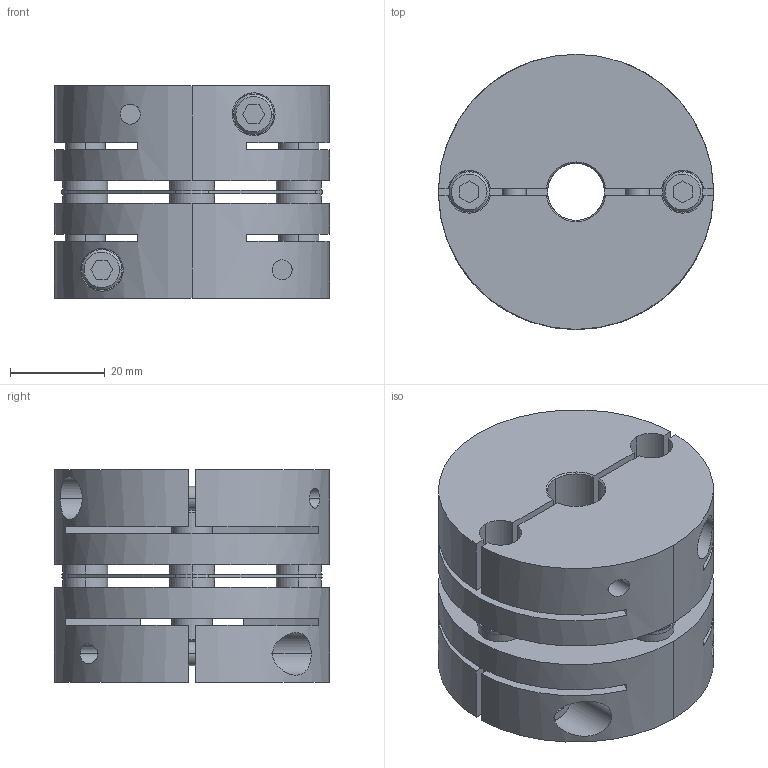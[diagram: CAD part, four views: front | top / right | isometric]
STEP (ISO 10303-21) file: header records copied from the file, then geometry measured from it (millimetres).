
FILE_DESCRIPTION((''),'2;1');
FILE_NAME('LAS-58C-12×24.stp','2011-08-09T15:24:29',(''),(''),'AutoCAD STEP 2000i','AutoCAD 2000i',', , ');
FILE_SCHEMA(('CONFIG_CONTROL_DESIGN'));
Length unit declared in the file: millimetre
Products named in the file (6): LAS-58C-12×19; 忣兜1; LA-5802-D19; LA-5802-D12-1; LA-5802-D12; LAS58-ITA
Assembly tree (5 placements, depth 2):
  LAS-58C-12×19
    忣兜1
    LA-5802-D19
    LA-5802-D12-1
    LA-5802-D12
    LAS58-ITA
Bounding box: 58 x 58 x 44.8 mm (x, y, z)
Volume: 85260.5 mm3; surface area: 33008.4 mm2
Topology: 1 solids, 1 shells, 238 faces, 618 edges, 404 vertices
Faces by surface type: plane 114, cylinder 96, cone 28
Entity records: 8213 total; most frequent: CARTESIAN_POINT 1988, DIRECTION 1316, ORIENTED_EDGE 1240, EDGE_CURVE 620, AXIS2_PLACEMENT_3D 484, VERTEX_POINT 404, VECTOR 348, LINE 348
